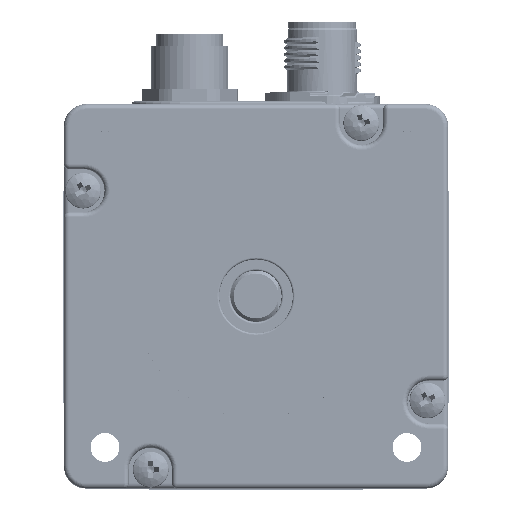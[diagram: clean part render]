
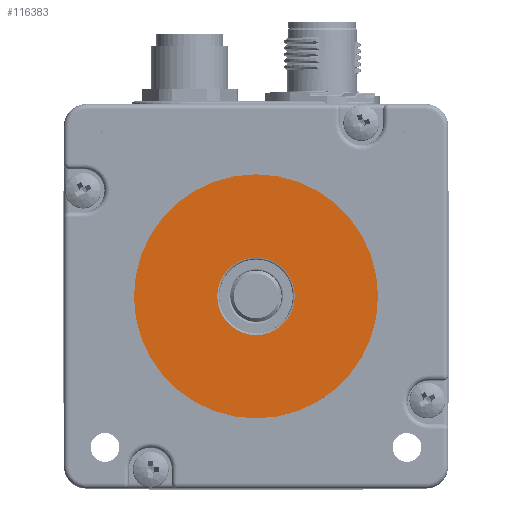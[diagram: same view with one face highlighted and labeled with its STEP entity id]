
A CAD part, top view. The second image highlights one B-rep face of the part: STEP entity #116383.
In plain terms, the highlighted planar face has unit normal (0, 0, 1).
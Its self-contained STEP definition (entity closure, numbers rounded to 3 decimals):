
#816 = DIRECTION ( 'NONE',  ( 0., 0., -1. ) ) ;
#2306 = DIRECTION ( 'NONE',  ( 1., 0., 0. ) ) ;
#7650 = ORIENTED_EDGE ( 'NONE', *, *, #243626, .T. ) ;
#11711 = CARTESIAN_POINT ( 'NONE',  ( -55.166, 24.237, 42.45 ) ) ;
#12459 = AXIS2_PLACEMENT_3D ( 'NONE', #145707, #276993, #124448 ) ;
#16874 = ORIENTED_EDGE ( 'NONE', *, *, #96941, .T. ) ;
#32312 = ORIENTED_EDGE ( 'NONE', *, *, #131737, .T. ) ;
#39220 = EDGE_CURVE ( 'NONE', #102544, #139733, #157097, .T. ) ;
#47951 = CARTESIAN_POINT ( 'NONE',  ( -42.166, 24.237, 42.45 ) ) ;
#71826 = FACE_BOUND ( 'NONE', #138564, .T. ) ;
#77556 = AXIS2_PLACEMENT_3D ( 'NONE', #236872, #816, #171927 ) ;
#91333 = CARTESIAN_POINT ( 'NONE',  ( -61.216, 24.237, 42.45 ) ) ;
#96941 = EDGE_CURVE ( 'NONE', #139733, #102544, #199443, .T. ) ;
#98241 = CIRCLE ( 'NONE', #12459, 19.05 ) ;
#102544 = VERTEX_POINT ( 'NONE', #11711 ) ;
#111552 = DIRECTION ( 'NONE',  ( 1., 0., 0. ) ) ;
#114794 = AXIS2_PLACEMENT_3D ( 'NONE', #141977, #208297, #248006 ) ;
#116383 = ADVANCED_FACE ( 'NONE', ( #71826, #175145 ), #177935, .T. ) ;
#124448 = DIRECTION ( 'NONE',  ( 1., 0., 0. ) ) ;
#129931 = DIRECTION ( 'NONE',  ( 0., 0., 1. ) ) ;
#131737 = EDGE_CURVE ( 'NONE', #263934, #131886, #98241, .T. ) ;
#131886 = VERTEX_POINT ( 'NONE', #47951 ) ;
#132343 = DIRECTION ( 'NONE',  ( 0., 0., -1. ) ) ;
#134099 = CARTESIAN_POINT ( 'NONE',  ( -61.216, 24.237, 42.45 ) ) ;
#138564 = EDGE_LOOP ( 'NONE', ( #152008, #16874 ) ) ;
#139733 = VERTEX_POINT ( 'NONE', #238649 ) ;
#141977 = CARTESIAN_POINT ( 'NONE',  ( -61.216, 24.237, 42.45 ) ) ;
#145707 = CARTESIAN_POINT ( 'NONE',  ( -61.216, 24.237, 42.45 ) ) ;
#152008 = ORIENTED_EDGE ( 'NONE', *, *, #39220, .T. ) ;
#157097 = CIRCLE ( 'NONE', #166212, 6.05 ) ;
#166212 = AXIS2_PLACEMENT_3D ( 'NONE', #91333, #132343, #2306 ) ;
#171927 = DIRECTION ( 'NONE',  ( 1., 0., 0. ) ) ;
#175145 = FACE_OUTER_BOUND ( 'NONE', #210081, .T. ) ;
#177935 = PLANE ( 'NONE',  #250421 ) ;
#196030 = CIRCLE ( 'NONE', #114794, 19.05 ) ;
#199443 = CIRCLE ( 'NONE', #77556, 6.05 ) ;
#208297 = DIRECTION ( 'NONE',  ( 0., 0., 1. ) ) ;
#210081 = EDGE_LOOP ( 'NONE', ( #32312, #7650 ) ) ;
#236872 = CARTESIAN_POINT ( 'NONE',  ( -61.216, 24.237, 42.45 ) ) ;
#238649 = CARTESIAN_POINT ( 'NONE',  ( -67.266, 24.237, 42.45 ) ) ;
#243626 = EDGE_CURVE ( 'NONE', #131886, #263934, #196030, .T. ) ;
#248006 = DIRECTION ( 'NONE',  ( 1., 0., 0. ) ) ;
#250421 = AXIS2_PLACEMENT_3D ( 'NONE', #134099, #129931, #111552 ) ;
#257488 = CARTESIAN_POINT ( 'NONE',  ( -80.266, 24.237, 42.45 ) ) ;
#263934 = VERTEX_POINT ( 'NONE', #257488 ) ;
#276993 = DIRECTION ( 'NONE',  ( 0., 0., 1. ) ) ;
